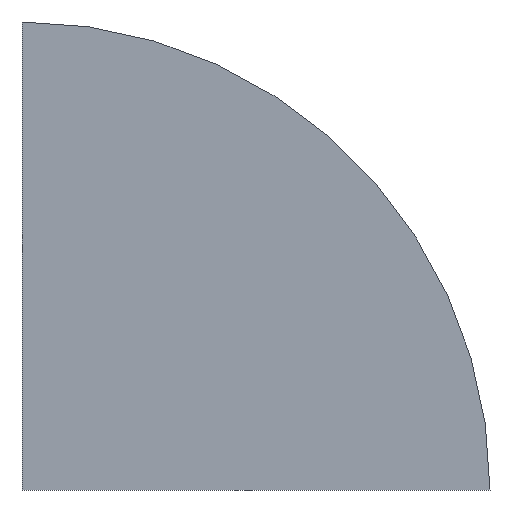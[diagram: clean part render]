
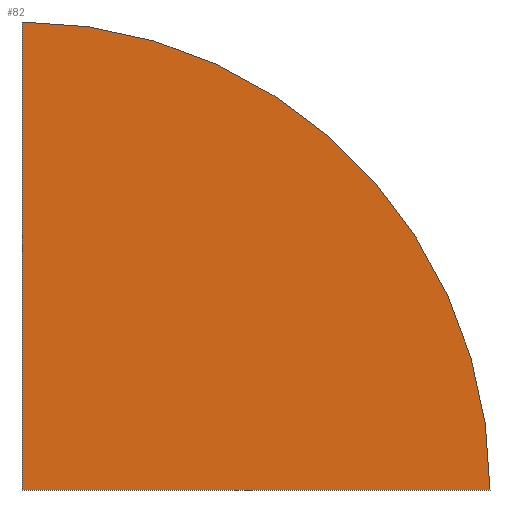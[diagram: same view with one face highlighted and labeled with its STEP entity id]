
A CAD part, front view. The second image highlights one B-rep face of the part: STEP entity #82.
In plain terms, the highlighted planar face has unit normal (0, -1, 0).
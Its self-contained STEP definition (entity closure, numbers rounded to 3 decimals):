
#51=CARTESIAN_POINT('Axis2P3D Location',(0.,0.,0.)) ;
#56=CARTESIAN_POINT('Line Origine',(67.5,0.,0.)) ;
#60=CARTESIAN_POINT('Vertex',(0.,0.,0.)) ;
#62=CARTESIAN_POINT('Vertex',(135.,0.,0.)) ;
#65=CARTESIAN_POINT('Axis2P3D Location',(0.,0.,0.)) ;
#69=CARTESIAN_POINT('Vertex',(0.,0.,135.)) ;
#72=CARTESIAN_POINT('Line Origine',(0.,0.,67.5)) ;
#52=DIRECTION('Axis2P3D Direction',(0.,-1.,0.)) ;
#53=DIRECTION('Axis2P3D XDirection',(1.,0.,0.)) ;
#57=DIRECTION('Vector Direction',(1.,0.,0.)) ;
#66=DIRECTION('Axis2P3D Direction',(0.,-1.,0.)) ;
#73=DIRECTION('Vector Direction',(0.,0.,1.)) ;
#54=AXIS2_PLACEMENT_3D('Plane Axis2P3D',#51,#52,#53) ;
#67=AXIS2_PLACEMENT_3D('Circle Axis2P3D',#65,#66,$) ;
#78=ORIENTED_EDGE('',*,*,#64,.T.) ;
#79=ORIENTED_EDGE('',*,*,#71,.T.) ;
#80=ORIENTED_EDGE('',*,*,#76,.F.) ;
#58=VECTOR('Line Direction',#57,1.) ;
#74=VECTOR('Line Direction',#73,1.) ;
#82=ADVANCED_FACE('PartBody',(#81),#55,.T.) ;
#68=CIRCLE('generated circle',#67,135.) ;
#64=EDGE_CURVE('',#61,#63,#59,.T.) ;
#71=EDGE_CURVE('',#63,#70,#68,.T.) ;
#76=EDGE_CURVE('',#61,#70,#75,.T.) ;
#77=EDGE_LOOP('',(#78,#79,#80)) ;
#81=FACE_OUTER_BOUND('',#77,.T.) ;
#59=LINE('Line',#56,#58) ;
#75=LINE('Line',#72,#74) ;
#55=PLANE('',#54) ;
#61=VERTEX_POINT('',#60) ;
#63=VERTEX_POINT('',#62) ;
#70=VERTEX_POINT('',#69) ;
